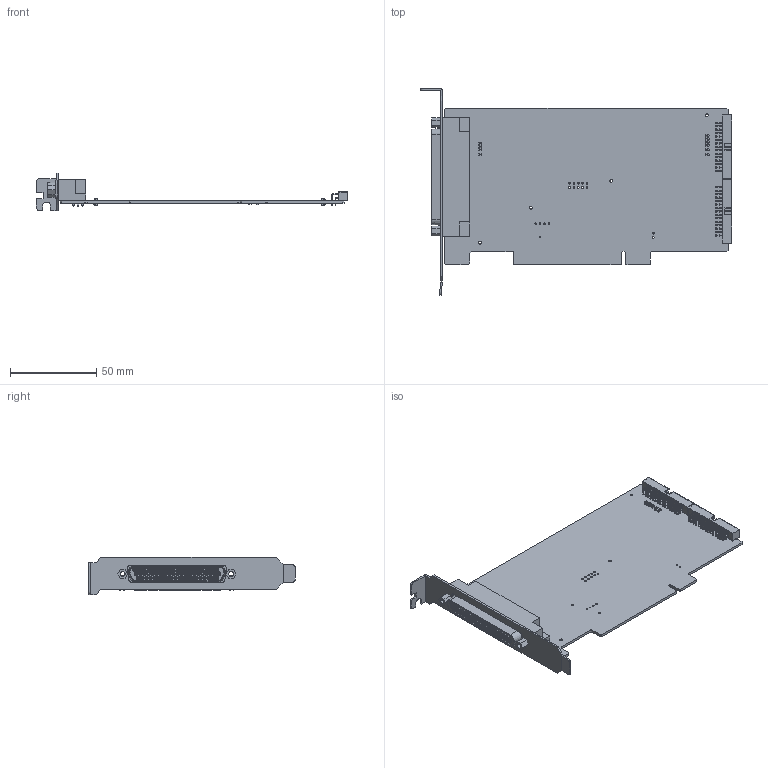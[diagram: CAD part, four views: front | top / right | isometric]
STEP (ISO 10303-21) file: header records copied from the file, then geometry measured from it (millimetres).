
FILE_DESCRIPTION (( 'STEP AP203' ), '1' );
FILE_NAME ('3Dͼֽ MPC3800 V1.0.STEP', '2022-09-30T03:09:10', ( 'Microsoft' ), ( 'Microsoft' ), 'SwSTEP 2.0', 'SolidWorks 2020', '' );
FILE_SCHEMA (( 'CONFIG_CONTROL_DESIGN' ));
Length unit declared in the file: millimetre
Products named in the file (3): MPC3800 V1.0; MPC3800結啣; 3Dͼֽ MPC3800 V1.0
Assembly tree (2 placements, depth 2):
  3Dͼֽ MPC3800 V1.0
    MPC3800 V1.0
    MPC3800結啣
Bounding box: 181 x 120.08 x 21.5 mm (x, y, z)
Volume: 1740.6 mm3; surface area: 45693.4 mm2
Topology: 1 solids, 96 shells, 1973 faces, 8387 edges, 6440 vertices
Faces by surface type: plane 1303, cylinder 478, cone 129, bspline 62, torus 1
Entity records: 94753 total; most frequent: CARTESIAN_POINT 29790, ORIENTED_EDGE 12484, DIRECTION 11630, EDGE_CURVE 8345, VERTEX_POINT 6440, VECTOR 4748, LINE 4748, AXIS2_PLACEMENT_3D 3441
